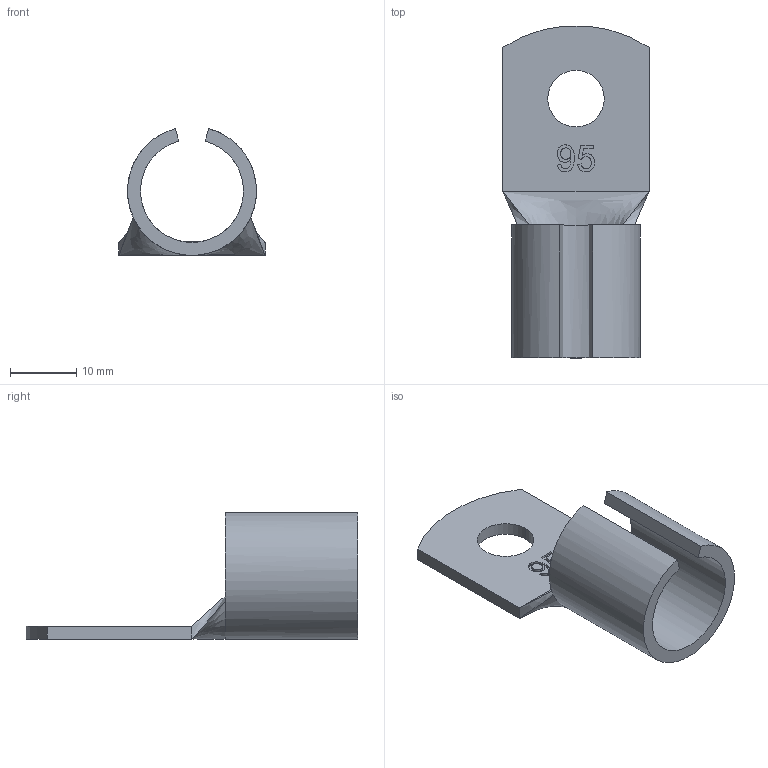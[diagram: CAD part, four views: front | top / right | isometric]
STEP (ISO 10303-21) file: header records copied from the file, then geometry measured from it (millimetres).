
FILE_DESCRIPTION (( 'STEP AP214' ), '1' );
FILE_NAME ('庋厴 95.STEP', '2016-08-04T10:40:13', ( 'admin' ), ( '' ), 'SwSTEP 2.0', 'SolidWorks 2012', '' );
FILE_SCHEMA (( 'AUTOMOTIVE_DESIGN' ));
Length unit declared in the file: millimetre
Products named in the file (1): 庋厴 95
Bounding box: 22 x 49.93 x 19.07 mm (x, y, z)
Volume: 3064 mm3; surface area: 3623.6 mm2
Topology: 1 solids, 1 shells, 51 faces, 130 edges, 84 vertices
Faces by surface type: bspline 26, plane 20, cylinder 5
Entity records: 2965 total; most frequent: CARTESIAN_POINT 1824, ORIENTED_EDGE 260, DIRECTION 144, EDGE_CURVE 130, VERTEX_POINT 84, VECTOR 72, LINE 72, EDGE_LOOP 56
